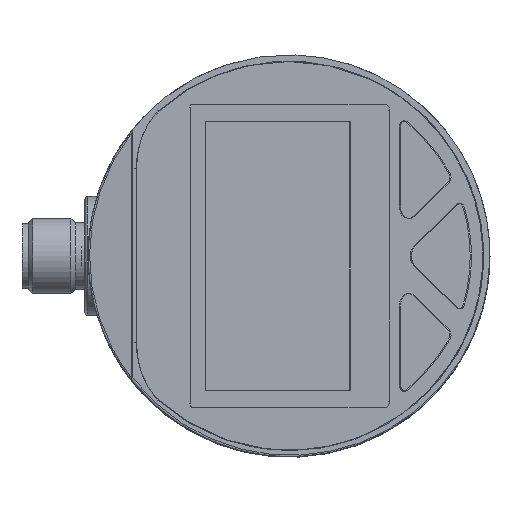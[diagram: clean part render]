
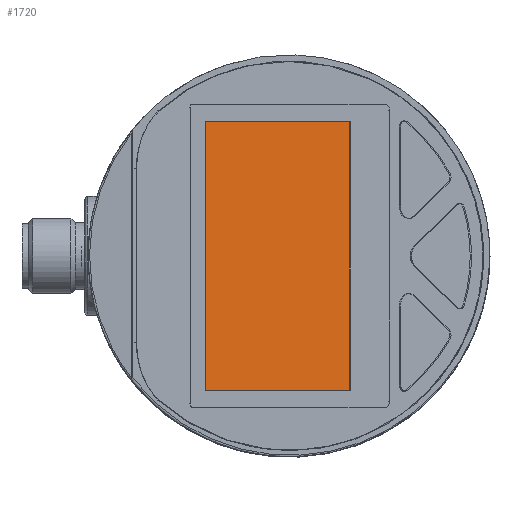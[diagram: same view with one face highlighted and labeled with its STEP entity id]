
A CAD part, top view. The second image highlights one B-rep face of the part: STEP entity #1720.
In plain terms, the highlighted free-form (B-spline) face has degree [1, 1] with [2, 2] control points.
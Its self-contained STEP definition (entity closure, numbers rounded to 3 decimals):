
#543=CARTESIAN_POINT('',(-16.242,-24.1,58.305));
#544=VERTEX_POINT('',#543);
#550=CARTESIAN_POINT('',(14.446,-24.1,27.616));
#551=VERTEX_POINT('',#550);
#552=CARTESIAN_POINT('',(14.446,-24.1,27.616));
#553=CARTESIAN_POINT('',(-16.242,-24.1,58.305));
#554=B_SPLINE_CURVE_WITH_KNOTS('',1,(#552,#553),.POLYLINE_FORM.,.F.,.U.,(2,2),(0.,1.),.UNSPECIFIED.);
#555=EDGE_CURVE('',#551,#544,#554,.T.);
#573=CARTESIAN_POINT('',(-16.596,-23.6,58.658));
#574=VERTEX_POINT('',#573);
#580=CARTESIAN_POINT('',(-16.242,-24.1,58.305));
#581=CARTESIAN_POINT('',(-16.596,-24.1,58.658));
#582=CARTESIAN_POINT('',(-16.596,-23.6,58.658));
#583=(BOUNDED_CURVE()B_SPLINE_CURVE(2,(#580,#581,#582),.CIRCULAR_ARC.,.F.,.U.)B_SPLINE_CURVE_WITH_KNOTS((3,3),(0.,1.),.UNSPECIFIED.)CURVE()GEOMETRIC_REPRESENTATION_ITEM()RATIONAL_B_SPLINE_CURVE((1.,0.707,1.))REPRESENTATION_ITEM(''));
#584=EDGE_CURVE('',#544,#574,#583,.T.);
#596=CARTESIAN_POINT('',(-16.596,23.645,58.658));
#597=VERTEX_POINT('',#596);
#603=CARTESIAN_POINT('',(-16.596,-23.6,58.658));
#604=CARTESIAN_POINT('',(-16.596,23.645,58.658));
#605=B_SPLINE_CURVE_WITH_KNOTS('',1,(#603,#604),.POLYLINE_FORM.,.F.,.U.,(2,2),(0.,1.),.UNSPECIFIED.);
#606=EDGE_CURVE('',#574,#597,#605,.T.);
#620=CARTESIAN_POINT('',(-16.242,24.145,58.305));
#621=VERTEX_POINT('',#620);
#627=CARTESIAN_POINT('',(-16.596,23.645,58.658));
#628=CARTESIAN_POINT('',(-16.596,24.145,58.658));
#629=CARTESIAN_POINT('',(-16.242,24.145,58.305));
#630=(BOUNDED_CURVE()B_SPLINE_CURVE(2,(#627,#628,#629),.CIRCULAR_ARC.,.F.,.U.)B_SPLINE_CURVE_WITH_KNOTS((3,3),(0.,1.),.UNSPECIFIED.)CURVE()GEOMETRIC_REPRESENTATION_ITEM()RATIONAL_B_SPLINE_CURVE((1.,0.707,1.))REPRESENTATION_ITEM(''));
#631=EDGE_CURVE('',#597,#621,#630,.T.);
#643=CARTESIAN_POINT('',(14.446,24.145,27.616));
#644=VERTEX_POINT('',#643);
#650=CARTESIAN_POINT('',(-16.242,24.145,58.305));
#651=CARTESIAN_POINT('',(14.446,24.145,27.616));
#652=B_SPLINE_CURVE_WITH_KNOTS('',1,(#650,#651),.POLYLINE_FORM.,.F.,.U.,(2,2),(0.,1.),.UNSPECIFIED.);
#653=EDGE_CURVE('',#621,#644,#652,.T.);
#667=CARTESIAN_POINT('',(15.153,23.145,26.909));
#668=VERTEX_POINT('',#667);
#674=CARTESIAN_POINT('',(14.446,24.145,27.616));
#675=CARTESIAN_POINT('',(15.153,24.145,26.909));
#676=CARTESIAN_POINT('',(15.153,23.145,26.909));
#677=(BOUNDED_CURVE()B_SPLINE_CURVE(2,(#674,#675,#676),.CIRCULAR_ARC.,.F.,.U.)B_SPLINE_CURVE_WITH_KNOTS((3,3),(0.,1.),.UNSPECIFIED.)CURVE()GEOMETRIC_REPRESENTATION_ITEM()RATIONAL_B_SPLINE_CURVE((1.,0.707,1.))REPRESENTATION_ITEM(''));
#678=EDGE_CURVE('',#644,#668,#677,.T.);
#690=CARTESIAN_POINT('',(15.153,-23.1,26.909));
#691=VERTEX_POINT('',#690);
#697=CARTESIAN_POINT('',(15.153,23.145,26.909));
#698=CARTESIAN_POINT('',(15.153,-23.1,26.909));
#699=B_SPLINE_CURVE_WITH_KNOTS('',1,(#697,#698),.POLYLINE_FORM.,.F.,.U.,(2,2),(0.,1.),.UNSPECIFIED.);
#700=EDGE_CURVE('',#668,#691,#699,.T.);
#715=CARTESIAN_POINT('',(15.153,-23.1,26.909));
#716=CARTESIAN_POINT('',(15.153,-24.1,26.909));
#717=CARTESIAN_POINT('',(14.446,-24.1,27.616));
#718=(BOUNDED_CURVE()B_SPLINE_CURVE(2,(#715,#716,#717),.CIRCULAR_ARC.,.F.,.U.)B_SPLINE_CURVE_WITH_KNOTS((3,3),(0.,1.),.UNSPECIFIED.)CURVE()GEOMETRIC_REPRESENTATION_ITEM()RATIONAL_B_SPLINE_CURVE((1.,0.707,1.))REPRESENTATION_ITEM(''));
#719=EDGE_CURVE('',#691,#551,#718,.T.);
#1705=CARTESIAN_POINT('',(31.065,32.462,10.998));
#1706=CARTESIAN_POINT('',(31.065,-32.462,10.998));
#1707=CARTESIAN_POINT('',(-25.262,32.462,67.324));
#1708=CARTESIAN_POINT('',(-25.262,-32.462,67.324));
#1709=B_SPLINE_SURFACE_WITH_KNOTS('',1,1,((#1705,#1706),(#1707,#1708)),.PLANE_SURF.,.F.,.F.,.U.,(2,2),(2,2),(0.028,0.955),(0.028,0.783),.UNSPECIFIED.);
#1710=ORIENTED_EDGE('',*,*,#678,.F.);
#1711=ORIENTED_EDGE('',*,*,#653,.F.);
#1712=ORIENTED_EDGE('',*,*,#631,.F.);
#1713=ORIENTED_EDGE('',*,*,#606,.F.);
#1714=ORIENTED_EDGE('',*,*,#584,.F.);
#1715=ORIENTED_EDGE('',*,*,#555,.F.);
#1716=ORIENTED_EDGE('',*,*,#719,.F.);
#1717=ORIENTED_EDGE('',*,*,#700,.F.);
#1718=EDGE_LOOP('',(#1710,#1711,#1712,#1713,#1714,#1715,#1716,#1717));
#1719=FACE_OUTER_BOUND('',#1718,.T.);
#1720=ADVANCED_FACE('',(#1719),#1709,.T.);
